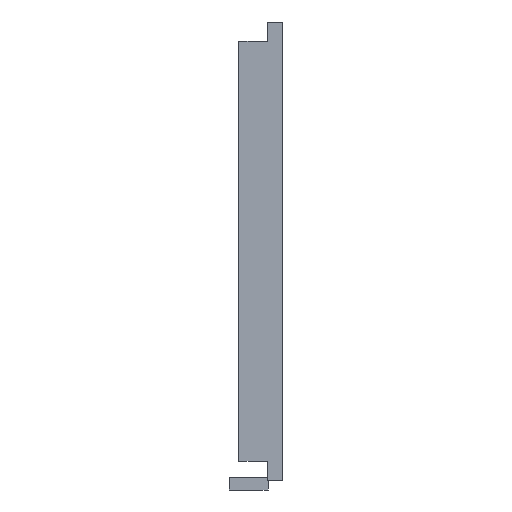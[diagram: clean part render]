
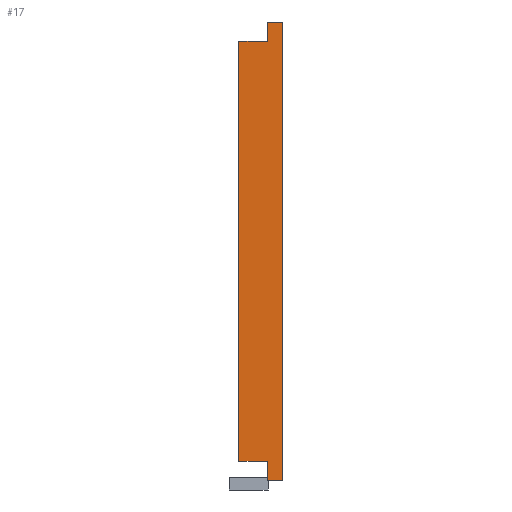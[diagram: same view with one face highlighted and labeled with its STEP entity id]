
A CAD part, left-side view. The second image highlights one B-rep face of the part: STEP entity #17.
In plain terms, the highlighted planar face has unit normal (-1, 0, 0).
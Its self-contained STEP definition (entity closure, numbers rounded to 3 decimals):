
#17 = ADVANCED_FACE('',(#18),#32,.F.);
#18 = FACE_BOUND('',#19,.F.);
#19 = EDGE_LOOP('',(#20,#55,#83,#111,#139,#167,#195,#223));
#20 = ORIENTED_EDGE('',*,*,#21,.F.);
#21 = EDGE_CURVE('',#22,#24,#26,.T.);
#22 = VERTEX_POINT('',#23);
#23 = CARTESIAN_POINT('',(-73.,5.8,81.));
#24 = VERTEX_POINT('',#25);
#25 = CARTESIAN_POINT('',(-73.,8.2,81.));
#26 = SURFACE_CURVE('',#27,(#31,#43),.PCURVE_S1.);
#27 = LINE('',#28,#29);
#28 = CARTESIAN_POINT('',(-73.,5.8,81.));
#29 = VECTOR('',#30,1.);
#30 = DIRECTION('',(-0.,1.,0.));
#31 = PCURVE('',#32,#37);
#32 = PLANE('',#33);
#33 = AXIS2_PLACEMENT_3D('',#34,#35,#36);
#34 = CARTESIAN_POINT('',(-73.,5.8,9.));
#35 = DIRECTION('',(1.,0.,-0.));
#36 = DIRECTION('',(0.,0.,1.));
#37 = DEFINITIONAL_REPRESENTATION('',(#38),#42);
#38 = LINE('',#39,#40);
#39 = CARTESIAN_POINT('',(72.,0.));
#40 = VECTOR('',#41,1.);
#41 = DIRECTION('',(0.,-1.));
#42 = ( GEOMETRIC_REPRESENTATION_CONTEXT(2) 
PARAMETRIC_REPRESENTATION_CONTEXT() REPRESENTATION_CONTEXT('2D SPACE',''
  ) );
#43 = PCURVE('',#44,#49);
#44 = PLANE('',#45);
#45 = AXIS2_PLACEMENT_3D('',#46,#47,#48);
#46 = CARTESIAN_POINT('',(-73.,5.8,81.));
#47 = DIRECTION('',(0.,0.,1.));
#48 = DIRECTION('',(1.,0.,-0.));
#49 = DEFINITIONAL_REPRESENTATION('',(#50),#54);
#50 = LINE('',#51,#52);
#51 = CARTESIAN_POINT('',(0.,0.));
#52 = VECTOR('',#53,1.);
#53 = DIRECTION('',(0.,1.));
#54 = ( GEOMETRIC_REPRESENTATION_CONTEXT(2) 
PARAMETRIC_REPRESENTATION_CONTEXT() REPRESENTATION_CONTEXT('2D SPACE',''
  ) );
#55 = ORIENTED_EDGE('',*,*,#56,.F.);
#56 = EDGE_CURVE('',#57,#22,#59,.T.);
#57 = VERTEX_POINT('',#58);
#58 = CARTESIAN_POINT('',(-73.,5.8,9.));
#59 = SURFACE_CURVE('',#60,(#64,#71),.PCURVE_S1.);
#60 = LINE('',#61,#62);
#61 = CARTESIAN_POINT('',(-73.,5.8,9.));
#62 = VECTOR('',#63,1.);
#63 = DIRECTION('',(0.,0.,1.));
#64 = PCURVE('',#32,#65);
#65 = DEFINITIONAL_REPRESENTATION('',(#66),#70);
#66 = LINE('',#67,#68);
#67 = CARTESIAN_POINT('',(0.,0.));
#68 = VECTOR('',#69,1.);
#69 = DIRECTION('',(1.,0.));
#70 = ( GEOMETRIC_REPRESENTATION_CONTEXT(2) 
PARAMETRIC_REPRESENTATION_CONTEXT() REPRESENTATION_CONTEXT('2D SPACE',''
  ) );
#71 = PCURVE('',#72,#77);
#72 = PLANE('',#73);
#73 = AXIS2_PLACEMENT_3D('',#74,#75,#76);
#74 = CARTESIAN_POINT('',(-73.,5.8,9.));
#75 = DIRECTION('',(-0.,1.,0.));
#76 = DIRECTION('',(0.,0.,1.));
#77 = DEFINITIONAL_REPRESENTATION('',(#78),#82);
#78 = LINE('',#79,#80);
#79 = CARTESIAN_POINT('',(0.,0.));
#80 = VECTOR('',#81,1.);
#81 = DIRECTION('',(1.,0.));
#82 = ( GEOMETRIC_REPRESENTATION_CONTEXT(2) 
PARAMETRIC_REPRESENTATION_CONTEXT() REPRESENTATION_CONTEXT('2D SPACE',''
  ) );
#83 = ORIENTED_EDGE('',*,*,#84,.T.);
#84 = EDGE_CURVE('',#57,#85,#87,.T.);
#85 = VERTEX_POINT('',#86);
#86 = CARTESIAN_POINT('',(-73.,8.2,9.));
#87 = SURFACE_CURVE('',#88,(#92,#99),.PCURVE_S1.);
#88 = LINE('',#89,#90);
#89 = CARTESIAN_POINT('',(-73.,5.8,9.));
#90 = VECTOR('',#91,1.);
#91 = DIRECTION('',(-0.,1.,0.));
#92 = PCURVE('',#32,#93);
#93 = DEFINITIONAL_REPRESENTATION('',(#94),#98);
#94 = LINE('',#95,#96);
#95 = CARTESIAN_POINT('',(0.,0.));
#96 = VECTOR('',#97,1.);
#97 = DIRECTION('',(0.,-1.));
#98 = ( GEOMETRIC_REPRESENTATION_CONTEXT(2) 
PARAMETRIC_REPRESENTATION_CONTEXT() REPRESENTATION_CONTEXT('2D SPACE',''
  ) );
#99 = PCURVE('',#100,#105);
#100 = PLANE('',#101);
#101 = AXIS2_PLACEMENT_3D('',#102,#103,#104);
#102 = CARTESIAN_POINT('',(-73.,5.8,9.));
#103 = DIRECTION('',(0.,0.,1.));
#104 = DIRECTION('',(1.,0.,-0.));
#105 = DEFINITIONAL_REPRESENTATION('',(#106),#110);
#106 = LINE('',#107,#108);
#107 = CARTESIAN_POINT('',(0.,0.));
#108 = VECTOR('',#109,1.);
#109 = DIRECTION('',(0.,1.));
#110 = ( GEOMETRIC_REPRESENTATION_CONTEXT(2) 
PARAMETRIC_REPRESENTATION_CONTEXT() REPRESENTATION_CONTEXT('2D SPACE',''
  ) );
#111 = ORIENTED_EDGE('',*,*,#112,.T.);
#112 = EDGE_CURVE('',#85,#113,#115,.T.);
#113 = VERTEX_POINT('',#114);
#114 = CARTESIAN_POINT('',(-73.,8.2,12.));
#115 = SURFACE_CURVE('',#116,(#120,#127),.PCURVE_S1.);
#116 = LINE('',#117,#118);
#117 = CARTESIAN_POINT('',(-73.,8.2,9.));
#118 = VECTOR('',#119,1.);
#119 = DIRECTION('',(0.,0.,1.));
#120 = PCURVE('',#32,#121);
#121 = DEFINITIONAL_REPRESENTATION('',(#122),#126);
#122 = LINE('',#123,#124);
#123 = CARTESIAN_POINT('',(0.,-2.4));
#124 = VECTOR('',#125,1.);
#125 = DIRECTION('',(1.,0.));
#126 = ( GEOMETRIC_REPRESENTATION_CONTEXT(2) 
PARAMETRIC_REPRESENTATION_CONTEXT() REPRESENTATION_CONTEXT('2D SPACE',''
  ) );
#127 = PCURVE('',#128,#133);
#128 = PLANE('',#129);
#129 = AXIS2_PLACEMENT_3D('',#130,#131,#132);
#130 = CARTESIAN_POINT('',(-73.,8.2,9.));
#131 = DIRECTION('',(-0.,1.,0.));
#132 = DIRECTION('',(0.,0.,1.));
#133 = DEFINITIONAL_REPRESENTATION('',(#134),#138);
#134 = LINE('',#135,#136);
#135 = CARTESIAN_POINT('',(0.,0.));
#136 = VECTOR('',#137,1.);
#137 = DIRECTION('',(1.,0.));
#138 = ( GEOMETRIC_REPRESENTATION_CONTEXT(2) 
PARAMETRIC_REPRESENTATION_CONTEXT() REPRESENTATION_CONTEXT('2D SPACE',''
  ) );
#139 = ORIENTED_EDGE('',*,*,#140,.T.);
#140 = EDGE_CURVE('',#113,#141,#143,.T.);
#141 = VERTEX_POINT('',#142);
#142 = CARTESIAN_POINT('',(-73.,12.7,12.));
#143 = SURFACE_CURVE('',#144,(#148,#155),.PCURVE_S1.);
#144 = LINE('',#145,#146);
#145 = CARTESIAN_POINT('',(-73.,8.1,12.));
#146 = VECTOR('',#147,1.);
#147 = DIRECTION('',(-0.,1.,0.));
#148 = PCURVE('',#32,#149);
#149 = DEFINITIONAL_REPRESENTATION('',(#150),#154);
#150 = LINE('',#151,#152);
#151 = CARTESIAN_POINT('',(3.,-2.3));
#152 = VECTOR('',#153,1.);
#153 = DIRECTION('',(0.,-1.));
#154 = ( GEOMETRIC_REPRESENTATION_CONTEXT(2) 
PARAMETRIC_REPRESENTATION_CONTEXT() REPRESENTATION_CONTEXT('2D SPACE',''
  ) );
#155 = PCURVE('',#156,#161);
#156 = PLANE('',#157);
#157 = AXIS2_PLACEMENT_3D('',#158,#159,#160);
#158 = CARTESIAN_POINT('',(-73.,8.1,12.));
#159 = DIRECTION('',(0.,0.,1.));
#160 = DIRECTION('',(1.,0.,-0.));
#161 = DEFINITIONAL_REPRESENTATION('',(#162),#166);
#162 = LINE('',#163,#164);
#163 = CARTESIAN_POINT('',(0.,0.));
#164 = VECTOR('',#165,1.);
#165 = DIRECTION('',(0.,1.));
#166 = ( GEOMETRIC_REPRESENTATION_CONTEXT(2) 
PARAMETRIC_REPRESENTATION_CONTEXT() REPRESENTATION_CONTEXT('2D SPACE',''
  ) );
#167 = ORIENTED_EDGE('',*,*,#168,.T.);
#168 = EDGE_CURVE('',#141,#169,#171,.T.);
#169 = VERTEX_POINT('',#170);
#170 = CARTESIAN_POINT('',(-73.,12.7,78.));
#171 = SURFACE_CURVE('',#172,(#176,#183),.PCURVE_S1.);
#172 = LINE('',#173,#174);
#173 = CARTESIAN_POINT('',(-73.,12.7,12.));
#174 = VECTOR('',#175,1.);
#175 = DIRECTION('',(0.,0.,1.));
#176 = PCURVE('',#32,#177);
#177 = DEFINITIONAL_REPRESENTATION('',(#178),#182);
#178 = LINE('',#179,#180);
#179 = CARTESIAN_POINT('',(3.,-6.9));
#180 = VECTOR('',#181,1.);
#181 = DIRECTION('',(1.,0.));
#182 = ( GEOMETRIC_REPRESENTATION_CONTEXT(2) 
PARAMETRIC_REPRESENTATION_CONTEXT() REPRESENTATION_CONTEXT('2D SPACE',''
  ) );
#183 = PCURVE('',#184,#189);
#184 = PLANE('',#185);
#185 = AXIS2_PLACEMENT_3D('',#186,#187,#188);
#186 = CARTESIAN_POINT('',(-73.,12.7,12.));
#187 = DIRECTION('',(-0.,1.,0.));
#188 = DIRECTION('',(0.,0.,1.));
#189 = DEFINITIONAL_REPRESENTATION('',(#190),#194);
#190 = LINE('',#191,#192);
#191 = CARTESIAN_POINT('',(0.,0.));
#192 = VECTOR('',#193,1.);
#193 = DIRECTION('',(1.,0.));
#194 = ( GEOMETRIC_REPRESENTATION_CONTEXT(2) 
PARAMETRIC_REPRESENTATION_CONTEXT() REPRESENTATION_CONTEXT('2D SPACE',''
  ) );
#195 = ORIENTED_EDGE('',*,*,#196,.F.);
#196 = EDGE_CURVE('',#197,#169,#199,.T.);
#197 = VERTEX_POINT('',#198);
#198 = CARTESIAN_POINT('',(-73.,8.2,78.));
#199 = SURFACE_CURVE('',#200,(#204,#211),.PCURVE_S1.);
#200 = LINE('',#201,#202);
#201 = CARTESIAN_POINT('',(-73.,8.1,78.));
#202 = VECTOR('',#203,1.);
#203 = DIRECTION('',(-0.,1.,0.));
#204 = PCURVE('',#32,#205);
#205 = DEFINITIONAL_REPRESENTATION('',(#206),#210);
#206 = LINE('',#207,#208);
#207 = CARTESIAN_POINT('',(69.,-2.3));
#208 = VECTOR('',#209,1.);
#209 = DIRECTION('',(0.,-1.));
#210 = ( GEOMETRIC_REPRESENTATION_CONTEXT(2) 
PARAMETRIC_REPRESENTATION_CONTEXT() REPRESENTATION_CONTEXT('2D SPACE',''
  ) );
#211 = PCURVE('',#212,#217);
#212 = PLANE('',#213);
#213 = AXIS2_PLACEMENT_3D('',#214,#215,#216);
#214 = CARTESIAN_POINT('',(-73.,8.1,78.));
#215 = DIRECTION('',(0.,0.,1.));
#216 = DIRECTION('',(1.,0.,-0.));
#217 = DEFINITIONAL_REPRESENTATION('',(#218),#222);
#218 = LINE('',#219,#220);
#219 = CARTESIAN_POINT('',(0.,0.));
#220 = VECTOR('',#221,1.);
#221 = DIRECTION('',(0.,1.));
#222 = ( GEOMETRIC_REPRESENTATION_CONTEXT(2) 
PARAMETRIC_REPRESENTATION_CONTEXT() REPRESENTATION_CONTEXT('2D SPACE',''
  ) );
#223 = ORIENTED_EDGE('',*,*,#224,.T.);
#224 = EDGE_CURVE('',#197,#24,#225,.T.);
#225 = SURFACE_CURVE('',#226,(#230,#237),.PCURVE_S1.);
#226 = LINE('',#227,#228);
#227 = CARTESIAN_POINT('',(-73.,8.2,9.));
#228 = VECTOR('',#229,1.);
#229 = DIRECTION('',(0.,0.,1.));
#230 = PCURVE('',#32,#231);
#231 = DEFINITIONAL_REPRESENTATION('',(#232),#236);
#232 = LINE('',#233,#234);
#233 = CARTESIAN_POINT('',(0.,-2.4));
#234 = VECTOR('',#235,1.);
#235 = DIRECTION('',(1.,0.));
#236 = ( GEOMETRIC_REPRESENTATION_CONTEXT(2) 
PARAMETRIC_REPRESENTATION_CONTEXT() REPRESENTATION_CONTEXT('2D SPACE',''
  ) );
#237 = PCURVE('',#128,#238);
#238 = DEFINITIONAL_REPRESENTATION('',(#239),#243);
#239 = LINE('',#240,#241);
#240 = CARTESIAN_POINT('',(0.,0.));
#241 = VECTOR('',#242,1.);
#242 = DIRECTION('',(1.,0.));
#243 = ( GEOMETRIC_REPRESENTATION_CONTEXT(2) 
PARAMETRIC_REPRESENTATION_CONTEXT() REPRESENTATION_CONTEXT('2D SPACE',''
  ) );
